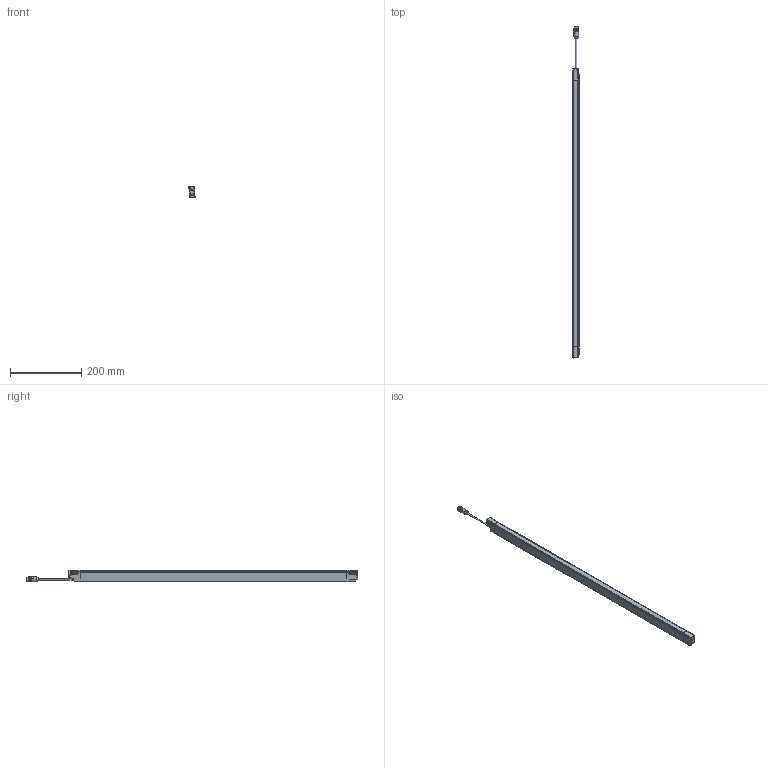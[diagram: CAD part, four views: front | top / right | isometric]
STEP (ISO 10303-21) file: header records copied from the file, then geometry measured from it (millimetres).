
FILE_DESCRIPTION(/* description */ (''),/* implementation_level */ '2;1');
FILE_NAME(/* name */ 'DSD-0642.stp',/* time_stamp */ '2015-02-23T17:38:44+01:00',/* author */ (''),/* organization */ (''),/* preprocessor_version */ 'ST-DEVELOPER v11',/* originating_system */ 'SIEMENS PLM Software NX 7.5',/* authorisation */ '');
FILE_SCHEMA (('AUTOMOTIVE_DESIGN { 1 0 10303 214 1 1 1 1 }'));
Length unit declared in the file: millimetre
Products named in the file (1): AP008124_00
Bounding box: 17.36 x 930.24 x 33.46 mm (x, y, z)
Surface area: 97638.5 mm2 (no closed solid volume)
Topology: 0 solids, 47 shells, 1060 faces, 3615 edges, 2486 vertices
Faces by surface type: cylinder 394, plane 312, bspline 147, torus 114, sphere 65, cone 28
Full cylindrical faces by diameter (mm): 1 x5, 1.2 x2, 2.6 x6, 4 x1, 8.3 x1, 9.4 x1, 10.4 x1, 12 x1, 13 x1, 13.5 x1, 14.5 x2
Entity records: 44637 total; most frequent: CARTESIAN_POINT 14017, DIRECTION 6588, ORIENTED_EDGE 5615, EDGE_CURVE 3505, AXIS2_PLACEMENT_3D 2485, VERTEX_POINT 2460, LINE 1618, VECTOR 1618
